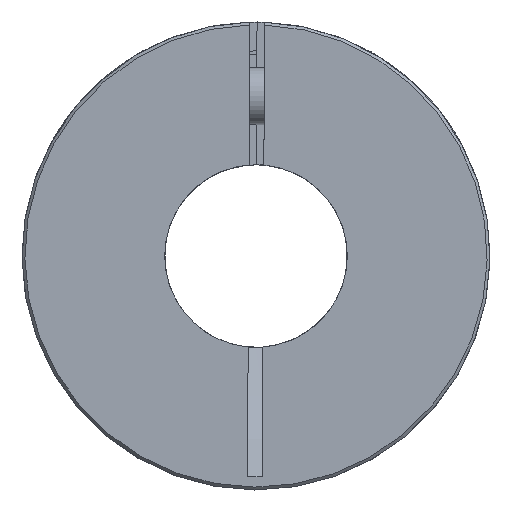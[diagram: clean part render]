
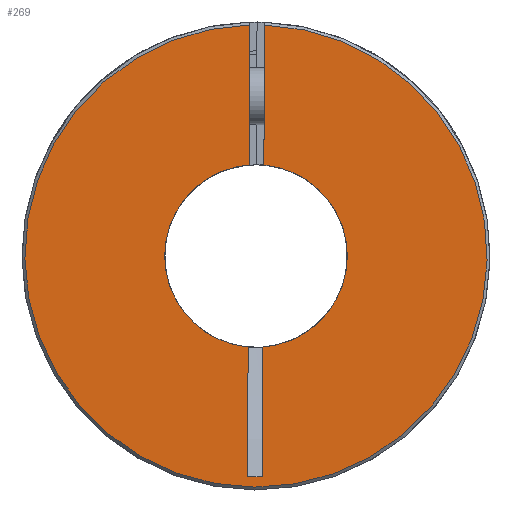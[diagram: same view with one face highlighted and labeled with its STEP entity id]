
A CAD part, left-side view. The second image highlights one B-rep face of the part: STEP entity #269.
In plain terms, the highlighted planar face has unit normal (-1, 0, 0).
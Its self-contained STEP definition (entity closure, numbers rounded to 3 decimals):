
#269 = ADVANCED_FACE( '', ( #571 ), #572, .F. );
#571 = FACE_OUTER_BOUND( '', #952, .T. );
#572 = PLANE( '', #953 );
#952 = EDGE_LOOP( '', ( #1433, #1434, #1435, #1436, #1437, #1438, #1439, #1440 ) );
#953 = AXIS2_PLACEMENT_3D( '', #1441, #1442, #1443 );
#1433 = ORIENTED_EDGE( '', *, *, #1963, .F. );
#1434 = ORIENTED_EDGE( '', *, *, #1964, .F. );
#1435 = ORIENTED_EDGE( '', *, *, #1965, .T. );
#1436 = ORIENTED_EDGE( '', *, *, #1966, .T. );
#1437 = ORIENTED_EDGE( '', *, *, #1967, .F. );
#1438 = ORIENTED_EDGE( '', *, *, #1968, .T. );
#1439 = ORIENTED_EDGE( '', *, *, #1958, .T. );
#1440 = ORIENTED_EDGE( '', *, *, #1969, .F. );
#1441 = CARTESIAN_POINT( '', ( 0., 7., 0. ) );
#1442 = DIRECTION( '', ( 1., 0., 0. ) );
#1443 = DIRECTION( '', ( 0., 1., 0. ) );
#1958 = EDGE_CURVE( 'NONE', #2257, #2258, #2259, .F. );
#1963 = EDGE_CURVE( '', #2266, #2267, #2268, .F. );
#1964 = EDGE_CURVE( 'NONE', #2269, #2266, #2270, .F. );
#1965 = EDGE_CURVE( 'NONE', #2269, #2271, #2272, .T. );
#1966 = EDGE_CURVE( 'NONE', #2271, #2273, #2274, .T. );
#1967 = EDGE_CURVE( '', #2275, #2273, #2276, .F. );
#1968 = EDGE_CURVE( '', #2275, #2257, #2277, .T. );
#1969 = EDGE_CURVE( '', #2267, #2258, #2278, .F. );
#2257 = VERTEX_POINT( 'NONE', #2776 );
#2258 = VERTEX_POINT( 'NONE', #2777 );
#2259 = CIRCLE( '', #2778, 40.5 );
#2266 = VERTEX_POINT( '', #2791 );
#2267 = VERTEX_POINT( '', #2792 );
#2268 = CIRCLE( '', #2793, 16. );
#2269 = VERTEX_POINT( 'NONE', #2794 );
#2270 = LINE( '', #2795, #2796 );
#2271 = VERTEX_POINT( 'NONE', #2797 );
#2272 = LINE( '', #2798, #2799 );
#2273 = VERTEX_POINT( '', #2800 );
#2274 = LINE( '', #2801, #2802 );
#2275 = VERTEX_POINT( '', #2803 );
#2276 = CIRCLE( '', #2804, 16. );
#2277 = LINE( '', #2805, #2806 );
#2278 = LINE( '', #2807, #2808 );
#2776 = CARTESIAN_POINT( '', ( 0., 1.3, 40.479 ) );
#2777 = CARTESIAN_POINT( '', ( 0., -1.3, 40.479 ) );
#2778 = AXIS2_PLACEMENT_3D( '', #3141, #3142, #3143 );
#2791 = CARTESIAN_POINT( '', ( 0., -1.3, -15.947 ) );
#2792 = CARTESIAN_POINT( '', ( 0., -1.3, 15.947 ) );
#2793 = AXIS2_PLACEMENT_3D( '', #3147, #3148, #3149 );
#2794 = CARTESIAN_POINT( '', ( 0., -1.3, -38.697 ) );
#2795 = CARTESIAN_POINT( '', ( 0., -1.3, 11. ) );
#2796 = VECTOR( '', #3150, 1000. );
#2797 = CARTESIAN_POINT( '', ( 0., 1.3, -38.697 ) );
#2798 = CARTESIAN_POINT( '', ( 0., -1.3, -38.697 ) );
#2799 = VECTOR( '', #3151, 1000. );
#2800 = CARTESIAN_POINT( '', ( 0., 1.3, -15.947 ) );
#2801 = CARTESIAN_POINT( '', ( 0., 1.3, 0. ) );
#2802 = VECTOR( '', #3152, 1000. );
#2803 = CARTESIAN_POINT( '', ( 0., 1.3, 15.947 ) );
#2804 = AXIS2_PLACEMENT_3D( '', #3153, #3154, #3155 );
#2805 = CARTESIAN_POINT( '', ( 0., 1.3, 0. ) );
#2806 = VECTOR( '', #3156, 1000. );
#2807 = CARTESIAN_POINT( '', ( 0., -1.3, 11. ) );
#2808 = VECTOR( '', #3157, 1000. );
#3141 = CARTESIAN_POINT( '', ( 0., 0., 0. ) );
#3142 = DIRECTION( '', ( 1., 0., 0. ) );
#3143 = DIRECTION( '', ( 0., 0., -1. ) );
#3147 = CARTESIAN_POINT( '', ( 0., 0., 0. ) );
#3148 = DIRECTION( '', ( 1., 0., 0. ) );
#3149 = DIRECTION( '', ( 0., 0., -1. ) );
#3150 = DIRECTION( '', ( 0., 0., -1. ) );
#3151 = DIRECTION( '', ( 0., 1., 0. ) );
#3152 = DIRECTION( '', ( 0., 0., 1. ) );
#3153 = CARTESIAN_POINT( '', ( 0., 0., 0. ) );
#3154 = DIRECTION( '', ( 1., 0., 0. ) );
#3155 = DIRECTION( '', ( 0., 0., -1. ) );
#3156 = DIRECTION( '', ( 0., 0., 1. ) );
#3157 = DIRECTION( '', ( 0., 0., -1. ) );
